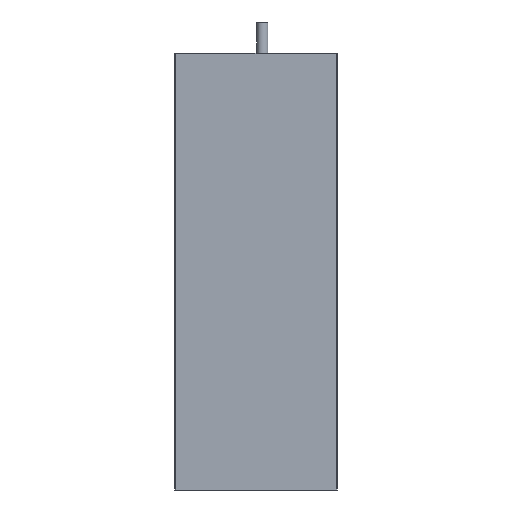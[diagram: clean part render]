
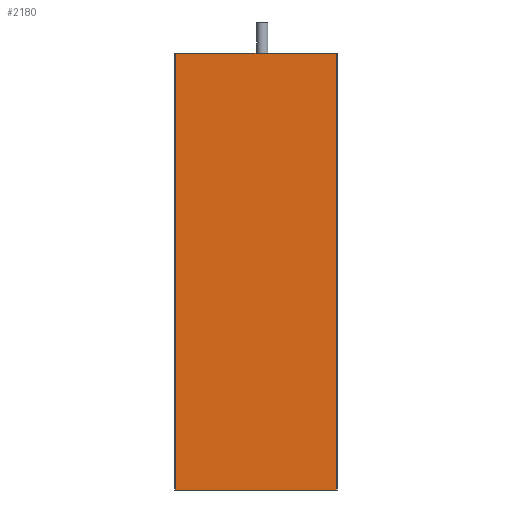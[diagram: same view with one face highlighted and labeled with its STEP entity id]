
A CAD part, front view. The second image highlights one B-rep face of the part: STEP entity #2180.
In plain terms, the highlighted planar face has unit normal (0, -1, 0).
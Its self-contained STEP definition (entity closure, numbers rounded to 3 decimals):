
#410=FACE_OUTER_BOUND('',#592,.T.);
#592=EDGE_LOOP('',(#1987,#1988,#1989,#1990));
#604=LINE('',#3186,#772);
#638=LINE('',#3320,#806);
#641=LINE('',#3327,#809);
#648=LINE('',#3343,#816);
#772=VECTOR('',#2481,10.);
#806=VECTOR('',#2603,10.);
#809=VECTOR('',#2610,10.);
#816=VECTOR('',#2623,10.);
#939=VERTEX_POINT('',#3183);
#940=VERTEX_POINT('',#3185);
#995=VERTEX_POINT('',#3316);
#998=VERTEX_POINT('',#3326);
#1132=EDGE_CURVE('',#939,#940,#604,.T.);
#1199=EDGE_CURVE('',#940,#995,#638,.T.);
#1202=EDGE_CURVE('',#995,#998,#641,.T.);
#1211=EDGE_CURVE('',#998,#939,#648,.T.);
#1987=ORIENTED_EDGE('',*,*,#1199,.F.);
#1988=ORIENTED_EDGE('',*,*,#1132,.F.);
#1989=ORIENTED_EDGE('',*,*,#1211,.F.);
#1990=ORIENTED_EDGE('',*,*,#1202,.F.);
#2039=PLANE('',#2463);
#2180=ADVANCED_FACE('',(#410),#2039,.F.);
#2463=AXIS2_PLACEMENT_3D('',#3783,#3158,#3159);
#2481=DIRECTION('',(-1.,0.,0.));
#2603=DIRECTION('',(0.,0.,1.));
#2610=DIRECTION('',(1.,0.,0.));
#2623=DIRECTION('',(0.,0.,-1.));
#3158=DIRECTION('center_axis',(0.,1.,0.));
#3159=DIRECTION('ref_axis',(0.,0.,1.));
#3183=CARTESIAN_POINT('',(64.5,12.7,-350.));
#3185=CARTESIAN_POINT('',(-64.5,12.7,-350.));
#3186=CARTESIAN_POINT('',(65.,12.7,-350.));
#3316=CARTESIAN_POINT('',(-64.5,12.7,0.));
#3320=CARTESIAN_POINT('',(-64.5,12.7,-262.5));
#3326=CARTESIAN_POINT('',(64.5,12.7,0.));
#3327=CARTESIAN_POINT('',(-65.,12.7,0.));
#3343=CARTESIAN_POINT('',(64.5,12.7,-87.5));
#3783=CARTESIAN_POINT('Origin',(0.,12.7,-175.));
